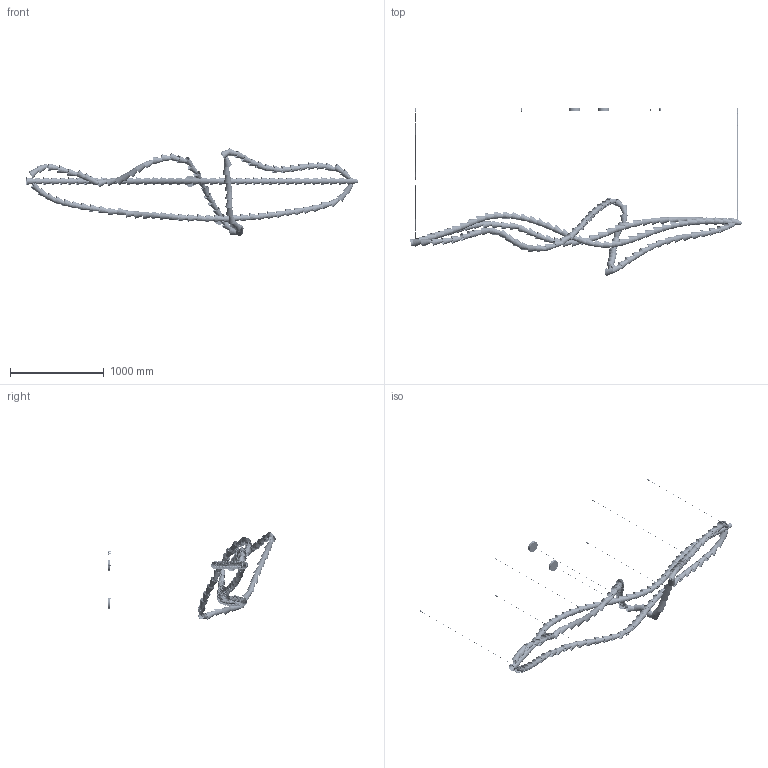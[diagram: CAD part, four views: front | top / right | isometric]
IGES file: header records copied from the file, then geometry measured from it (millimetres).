
Start section: SolidWorks IGES file using analytic representation for surfaces
Global section: file name: F:\燠隴矨\3D\2025-2\Gabriel Chandelier D-138heads-L350cm.IGS,15; native system: HSolidWorks 2022; preprocessor: SolidWorks 2022; author: MyPC; date: 250304.151314; units: millimetre
Bounding box: 3548.31 x 1792.4 x 935.99 mm (x, y, z)
Surface area: 6300788.7 mm2 (no closed solid volume)
Topology: 0 solids, 0 shells, 1750 faces, 35424 edges, 35424 vertices
Faces by surface type: revolution 1424, bspline 326
